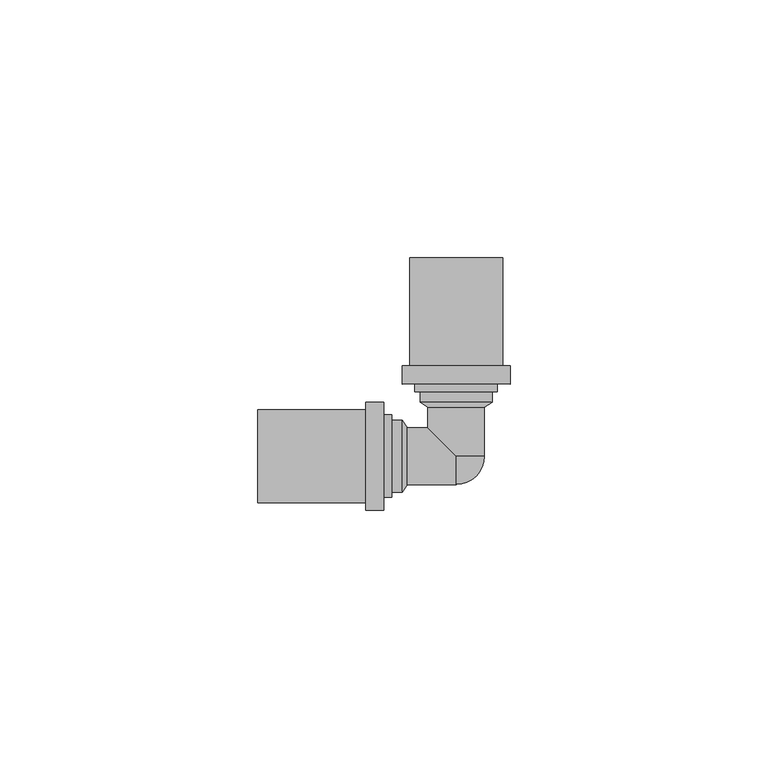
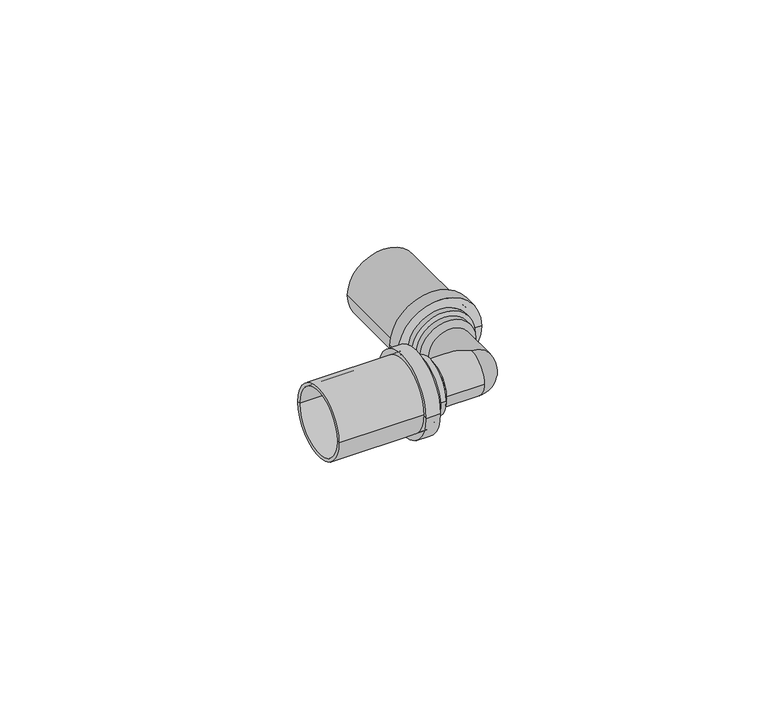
"""IFC4 building model written with IfcOpenShell, lengths in millimetres: pipe fitting geometry, Astra Gás - Cotovelo - GC : Astra Gás - Cotovelo - GC."""

import ifcopenshell
import ifcopenshell.guid

model = None  # the IFC model being written
_history = None  # IfcOwnerHistory: only IFC2X3 demands one
_inside = {}  # id of a spatial element -> (the spatial element, [elements in it])
_under = {}  # id of a project, library or spatial element -> (it, [spatial elements below it])
_declared = {}  # id of a project -> (the project, [libraries it declares])
_typed = {}  # id of a type object -> (the type object, [elements of that type])
_made_of = {}  # id of a material, layer set ... -> (it, [elements and type objects made of it])


def new_model(schema):
    """Start an empty IFC model of exactly this schema.

    Asked for "IFC4X3", IfcOpenShell would pick the latest addendum, in which some entities
    have other attributes; the version numbers below select the first issue.
    IFC2X3 requires an IfcOwnerHistory on every rooted entity: one is made here for all.
    """
    global model, _history
    if schema == "IFC4X3":
        model = ifcopenshell.file(schema_version=(4, 3, 0, 0))
    else:
        model = ifcopenshell.file(schema=schema)
    _inside.clear()
    _under.clear()
    _declared.clear()
    _typed.clear()
    _made_of.clear()
    _history = None
    if model.schema == "IFC2X3":
        org = make("IfcOrganization", Name="unknown")
        user = make(
            "IfcPersonAndOrganization",
            ThePerson=make("IfcPerson", FamilyName="unknown"),
            TheOrganization=org,
        )
        app = make(
            "IfcApplication",
            ApplicationDeveloper=org,
            Version="unknown",
            ApplicationFullName="unknown",
            ApplicationIdentifier="unknown",
        )
        _history = make(
            "IfcOwnerHistory",
            OwningUser=user,
            OwningApplication=app,
            ChangeAction="ADDED",
            CreationDate=0,
        )
    return model


def make(cls, **values):
    """One entity of the class cls with the attributes given. An attribute that is None is left unset."""
    return model.create_entity(
        cls, **{name: value for name, value in values.items() if value is not None}
    )


def rooted(cls, **values):
    """An entity with a GlobalId (a new one), such as an element, a storey or a relation."""
    return make(cls, GlobalId=ifcopenshell.guid.new(), OwnerHistory=_history, **values)


def si_unit(unit_type, name, prefix=None):
    """IfcSIUnit, for example si_unit("LENGTHUNIT", "METRE", prefix="MILLI")."""
    return make("IfcSIUnit", UnitType=unit_type, Prefix=prefix, Name=name)


def assignment(units):
    """IfcUnitAssignment: the units of a project."""
    return None if units is None else make("IfcUnitAssignment", Units=units)


def point(xyz):
    """IfcCartesianPoint."""
    return None if xyz is None else make("IfcCartesianPoint", Coordinates=xyz)


def direction(xyz):
    """IfcDirection."""
    return None if xyz is None else make("IfcDirection", DirectionRatios=xyz)


def frame(location, z_axis=None, x_axis=None):
    """IfcAxis2Placement3D, a coordinate frame: its origin and axes. An axis left out is left unset."""
    return make(
        "IfcAxis2Placement3D",
        Location=point(location),
        Axis=direction(z_axis),
        RefDirection=direction(x_axis),
    )


def origin():
    """The frame at (0, 0, 0) with its axes left unset."""
    return frame((0.0, 0.0, 0.0))


def place(relative_to, where):
    """IfcLocalPlacement: puts the frame where relative to a parent placement (None: the world)."""
    return make(
        "IfcLocalPlacement", PlacementRelTo=relative_to, RelativePlacement=where
    )


def context(
    kind, dimensions, precision=None, world=None, true_north=None, identifier=None
):
    """IfcGeometricRepresentationContext, for example the 3D "Model" context."""
    return make(
        "IfcGeometricRepresentationContext",
        ContextIdentifier=identifier,
        ContextType=kind,
        CoordinateSpaceDimension=dimensions,
        Precision=precision,
        WorldCoordinateSystem=world,
        TrueNorth=true_north,
    )


def project(units=None, contexts=None):
    """IfcProject with its units and contexts."""
    return rooted(
        "IfcProject",
        Name="project",
        RepresentationContexts=contexts,
        UnitsInContext=assignment(units),
    )


def spatial(cls, under=None, at=None, **own):
    """A site, building, storey or space (cls), placed at a placement, below another one or the project."""
    s = rooted(cls, ObjectPlacement=at, **own)
    if under is not None:
        _under.setdefault(under.id(), (under, []))[1].append(s)
    return s


def polyline(points):
    """IfcPolyline through the points."""
    return make("IfcPolyline", Points=[point(p) for p in points])


def circle_curve(where, radius):
    """IfcCircle in the frame where."""
    return make("IfcCircle", Position=where, Radius=radius)


def ellipse_curve(where, semi_axis1, semi_axis2):
    """IfcEllipse in the frame where."""
    return make(
        "IfcEllipse", Position=where, SemiAxis1=semi_axis1, SemiAxis2=semi_axis2
    )


def trimmed(basis, trim1, trim2, sense, master):
    """IfcTrimmedCurve: the piece of a basis curve between two trims."""
    return make(
        "IfcTrimmedCurve",
        BasisCurve=basis,
        Trim1=trim1,
        Trim2=trim2,
        SenseAgreement=sense,
        MasterRepresentation=master,
    )


def shape(context_of_items, identifier, shape_type, items):
    """IfcShapeRepresentation: the items that make up one representation, for example the "Body"."""
    return make(
        "IfcShapeRepresentation",
        ContextOfItems=context_of_items,
        RepresentationIdentifier=identifier,
        RepresentationType=shape_type,
        Items=items,
    )


def source(mapping_origin, context_of_items, identifier, shape_type, items):
    """IfcRepresentationMap: a shape defined once, which mapped items show again and again."""
    return make(
        "IfcRepresentationMap",
        MappingOrigin=mapping_origin,
        MappedRepresentation=shape(context_of_items, identifier, shape_type, items),
    )


def transform(
    local_origin,
    x_axis=None,
    y_axis=None,
    z_axis=None,
    scale=None,
    scale2=None,
    scale3=None,
    uniform=True,
):
    """IfcCartesianTransformationOperator3D, or its non-uniform kind. x_axis, y_axis, z_axis: its Axis1, 2, 3."""
    if uniform:
        return make(
            "IfcCartesianTransformationOperator3D",
            Axis1=direction(x_axis),
            Axis2=direction(y_axis),
            LocalOrigin=point(local_origin),
            Scale=scale,
            Axis3=direction(z_axis),
        )
    return make(
        "IfcCartesianTransformationOperator3DnonUniform",
        Axis1=direction(x_axis),
        Axis2=direction(y_axis),
        LocalOrigin=point(local_origin),
        Scale=scale,
        Axis3=direction(z_axis),
        Scale2=scale2,
        Scale3=scale3,
    )


def mapped(mapping_source, mapping_target):
    """IfcMappedItem: shows the shape of a source again, moved by a transform."""
    return make(
        "IfcMappedItem", MappingSource=mapping_source, MappingTarget=mapping_target
    )


def made_of(thing, what):
    """Note that an element or type object is made of a material, layer set ...; save() writes the relation."""
    if what is not None:
        _made_of.setdefault(what.id(), (what, []))[1].append(thing)
    return thing


def element(
    cls,
    number,
    at=None,
    inside=None,
    cuts=None,
    type_object=None,
    material=None,
    context=None,
    identifier="Body",
    shape_type=None,
    held_by="IfcProductDefinitionShape",
    body=None,
    shapes=None,
    **own,
):
    """One element of the class cls, such as IfcWall. Its Tag is "e" and its number.

    at: its placement. inside: the storey or other place that contains it. cuts: it is an
    opening in that element (IfcRelVoidsElement). A single representation is given by context,
    identifier, shape_type and body (its items); several are given by shapes. held_by: the class
    of the entity that holds the representations. save() writes the other relations.
    """
    e = rooted(cls, Tag="e%d" % number, ObjectPlacement=at, **own)
    if body is not None:
        shapes = [shape(context, identifier, shape_type, body)]
    if shapes is not None:
        e.Representation = make(held_by, Representations=shapes)
    if inside is not None:
        _inside.setdefault(inside.id(), (inside, []))[1].append(e)
    if cuts is not None:
        rooted(
            "IfcRelVoidsElement", RelatingBuildingElement=cuts, RelatedOpeningElement=e
        )
    if type_object is not None:
        _typed.setdefault(type_object.id(), (type_object, []))[1].append(e)
    return made_of(e, material)


def aggregate(whole, parts):
    """IfcRelAggregates: a whole, such as a stair, and the parts it consists of."""
    return rooted("IfcRelAggregates", RelatingObject=whole, RelatedObjects=parts)


def save(model, path):
    """Write the relations noted so far, then the file.

    IfcRelAggregates (storeys below a building ...), IfcRelContainedInSpatialStructure (elements
    in a storey), IfcRelDefinesByType, IfcRelAssociatesMaterial and IfcRelDeclares: one each for
    every whole, place, type object, material and project.
    """
    for whole, parts in _under.values():
        aggregate(whole, parts)
    for where, things in _inside.values():
        rooted(
            "IfcRelContainedInSpatialStructure",
            RelatedElements=things,
            RelatingStructure=where,
        )
    for kind, things in _typed.values():
        rooted("IfcRelDefinesByType", RelatedObjects=things, RelatingType=kind)
    for what, things in _made_of.values():
        rooted("IfcRelAssociatesMaterial", RelatedObjects=things, RelatingMaterial=what)
    for by, libraries in _declared.values():
        rooted("IfcRelDeclares", RelatingContext=by, RelatedDefinitions=libraries)
    model.write(path)


def plane_surface(at):
    """IfcPlane: the flat surface through the origin of the frame at, square to its z axis."""
    return make("IfcPlane", Position=at)


def cylinder_surface(at, radius):
    """IfcCylindricalSurface: all points at the distance radius from the z axis of the frame at."""
    return make("IfcCylindricalSurface", Position=at, Radius=radius)


def revolved_surface(curve, axis_point, axis_direction):
    """IfcSurfaceOfRevolution: the curve turned about the line through axis_point along axis_direction."""
    return make(
        "IfcSurfaceOfRevolution",
        SweptCurve=make("IfcArbitraryOpenProfileDef", ProfileType="CURVE", Curve=curve),
        AxisPosition=make("IfcAxis1Placement", Location=point(axis_point), Axis=direction(axis_direction)),
    )


def advanced_brep(points, edges, surfaces, faces):
    """IfcAdvancedBrep: a solid bounded by faces that lie on surfaces and meet in shared edges.

    An edge is (start, end): straight between two places in points (the first is 0);
    or (start, end, curve); or (start, end, curve, False) where it runs against its curve.
    A face is (place in surfaces, loops), or (place, loops, False) where it looks against
    its surface's normal. A loop lists edges by number (the first is 1), with a minus sign
    where the edge is run from its end to its start. The first loop is the outer one.
    """
    corners = [point(p) for p in points]
    vertices = [make("IfcVertexPoint", VertexGeometry=c) for c in corners]
    made = []
    for start, end, *more in edges:
        made.append(
            make(
                "IfcEdgeCurve",
                EdgeStart=vertices[start],
                EdgeEnd=vertices[end],
                EdgeGeometry=more[0] if more else make("IfcPolyline", Points=[corners[start], corners[end]]),
                SameSense=more[1] if len(more) > 1 else True,
            )
        )
    hull = []
    for where, loops, *sense in faces:
        bounds = []
        for j, loop in enumerate(loops):
            ring = [make("IfcOrientedEdge", EdgeElement=made[abs(k) - 1], Orientation=k > 0) for k in loop]
            bounds.append(
                make(
                    "IfcFaceOuterBound" if j == 0 else "IfcFaceBound",
                    Bound=make("IfcEdgeLoop", EdgeList=ring),
                    Orientation=True,
                )
            )
        hull.append(make("IfcAdvancedFace", Bounds=bounds, FaceSurface=surfaces[where], SameSense=sense[0] if sense else True))
    return make("IfcAdvancedBrep", Outer=make("IfcClosedShell", CfsFaces=hull))


def pipe_fitting_8c27515d(model_context):
    return source(origin(), model_context, "Body", "AdvancedBrep", [
        advanced_brep(
        [(-9.05, 38.5, 0.0), (9.05, 38.5, 0.0), (9.05, 15.0, 0.0), (-9.05, 15.0, 0.0), (-8.25, 38.5, 0.0), (8.25, 38.5, 0.0), (-8.25, 15.0, 0.0), (8.25, 15.0, 0.0)],
        [
            (0, 1, circle_curve(frame((0.0, 38.5, 0.0), z_axis=(0.0, -1.0, 0.0), x_axis=(1.0000000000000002, 0.0, 0.0)), 9.05)),
            (1, 2),
            (2, 3, circle_curve(frame((0.0, 15.0, 0.0), z_axis=(0.0, 1.0, 0.0), x_axis=(1.0000000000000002, 0.0, 0.0)), 9.05)),
            (3, 0),
            (1, 0, circle_curve(frame((0.0, 38.5, 0.0), z_axis=(0.0, -1.0, 0.0), x_axis=(1.0000000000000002, 0.0, 0.0)), 9.05)),
            (3, 2, circle_curve(frame((0.0, 15.0, 0.0), z_axis=(0.0, 1.0, 0.0), x_axis=(1.0000000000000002, 0.0, 0.0)), 9.05)),
            (4, 5, circle_curve(frame((0.0, 38.5, 0.0), z_axis=(0.0, -1.0, 0.0), x_axis=(1.0000000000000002, 0.0, 0.0)), 8.25)),
            (5, 1),
            (0, 4),
            (5, 4, circle_curve(frame((0.0, 38.5, 0.0), z_axis=(0.0, -1.0, 0.0), x_axis=(1.0000000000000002, 0.0, 0.0)), 8.25)),
            (6, 7, circle_curve(frame((0.0, 15.0, 0.0), z_axis=(0.0, -1.0, 0.0), x_axis=(1.0000000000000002, 0.0, 0.0)), 8.25)),
            (7, 5),
            (4, 6),
            (7, 6, circle_curve(frame((0.0, 15.0, 0.0), z_axis=(0.0, -1.0, 0.0), x_axis=(1.0000000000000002, 0.0, 0.0)), 8.25)),
            (2, 7),
            (6, 3),
        ],
        [
            cylinder_surface(frame((0.0, 38.5, 0.0), z_axis=(0.0, 1.0000000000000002, 0.0), x_axis=(1.0000000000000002, 0.0, 0.0)), 9.05),
            plane_surface(frame((0.0, 38.5, 0.0), z_axis=(0.0, 1.0, 0.0), x_axis=(1.0, 0.0, 0.0))),
            revolved_surface(polyline([(8.250000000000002, 38.5, 0.0), (8.250000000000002, 14.999999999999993, 0.0)]), (0.0, 38.5, 0.0), (0.0, 1.0000000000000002, 0.0)),
            plane_surface(frame((0.0, 15.0, 0.0), z_axis=(0.0, -1.0, 0.0), x_axis=(1.0, 0.0, 0.0))),
        ],
        [
            (0, [[1, 2, 3, 4]]),
            (0, [[5, -4, 6, -2]]),
            (1, [[7, 8, -1, 9]]),
            (1, [[10, -9, -5, -8]]),
            (2, [[11, 12, -7, 13]]),
            (2, [[14, -13, -10, -12]]),
            (3, [[-3, 15, -11, 16]]),
            (3, [[-6, -16, -14, -15]]),
        ],
    ),
        advanced_brep(
        [(-38.5, -9.05, 0.0), (-38.5, 9.05, 0.0), (-15.0, 9.05, 0.0), (-15.0, -9.05, 0.0), (-38.5, -8.25, 0.0), (-38.5, 8.25, 0.0), (-15.0, -8.25, 0.0), (-15.0, 8.25, 0.0)],
        [
            (0, 1, circle_curve(frame((-38.5, 0.0, 0.0), z_axis=(1.0, 0.0, 0.0), x_axis=(0.0, 1.0, 0.0)), 9.05)),
            (1, 2),
            (2, 3, circle_curve(frame((-15.0, 0.0, 0.0), z_axis=(-1.0, 0.0, 0.0), x_axis=(0.0, 1.0, 0.0)), 9.05)),
            (3, 0),
            (1, 0, circle_curve(frame((-38.5, 0.0, 0.0), z_axis=(1.0, 0.0, 0.0), x_axis=(0.0, 1.0, 0.0)), 9.05)),
            (3, 2, circle_curve(frame((-15.0, 0.0, 0.0), z_axis=(-1.0, 0.0, 0.0), x_axis=(0.0, 1.0, 0.0)), 9.05)),
            (4, 5, circle_curve(frame((-38.5, 0.0, 0.0), z_axis=(1.0, 0.0, 0.0), x_axis=(0.0, 1.0, 0.0)), 8.25)),
            (5, 1),
            (0, 4),
            (5, 4, circle_curve(frame((-38.5, 0.0, 0.0), z_axis=(1.0, 0.0, 0.0), x_axis=(0.0, 1.0, 0.0)), 8.25)),
            (6, 7, circle_curve(frame((-15.0, 0.0, 0.0), z_axis=(1.0, 0.0, 0.0), x_axis=(0.0, 1.0, 0.0)), 8.25)),
            (7, 5),
            (4, 6),
            (7, 6, circle_curve(frame((-15.0, 0.0, 0.0), z_axis=(1.0, 0.0, 0.0), x_axis=(0.0, 1.0, 0.0)), 8.25)),
            (2, 7),
            (6, 3),
        ],
        [
            cylinder_surface(frame((-38.5, 0.0, 0.0), z_axis=(-1.0, 0.0, 0.0), x_axis=(0.0, 1.0, 0.0)), 9.05),
            plane_surface(frame((-38.5, 0.0, 0.0), z_axis=(-1.0, 0.0, 0.0), x_axis=(0.0, 1.0, 0.0))),
            revolved_surface(polyline([(-38.5, 8.25, 0.0), (-15.0, 8.25, 0.0)]), (-38.5, 0.0, 0.0), (-1.0, 0.0, 0.0)),
            plane_surface(frame((-15.0, 0.0, 0.0), z_axis=(1.0, 0.0, 0.0), x_axis=(0.0, 1.0, 0.0))),
        ],
        [
            (0, [[1, 2, 3, 4]]),
            (0, [[5, -4, 6, -2]]),
            (1, [[7, 8, -1, 9]]),
            (1, [[10, -9, -5, -8]]),
            (2, [[11, 12, -7, 13]]),
            (2, [[14, -13, -10, -12]]),
            (3, [[-3, 15, -11, 16]]),
            (3, [[-6, -16, -14, -15]]),
        ],
    ),
        advanced_brep(
        [(-9.05, 15.0, 0.0), (9.05, 15.0, 0.0), (9.05, 17.5, 0.0), (-9.05, 17.5, 0.0), (0.0, 15.0, 0.0), (-8.0, 12.5, 0.0), (8.0, 12.5, 0.0), (0.0, 12.5, 0.0), (-8.0, 14.0, 0.0), (8.0, 14.0, 0.0), (-10.5, 14.0, 0.0), (10.5, 14.0, 0.0), (-10.5, 17.5, 0.0), (10.5, 17.5, 0.0)],
        [
            (0, 1, circle_curve(frame((0.0, 15.0, 0.0), z_axis=(0.0, -1.0, 0.0), x_axis=(1.0000000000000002, 0.0, 0.0)), 9.05)),
            (1, 2),
            (2, 3, circle_curve(frame((0.0, 17.5, 0.0), z_axis=(0.0, 1.0, 0.0), x_axis=(1.0000000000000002, 0.0, 0.0)), 9.05)),
            (3, 0),
            (1, 0, circle_curve(frame((0.0, 15.0, 0.0), z_axis=(0.0, -1.0, 0.0), x_axis=(1.0000000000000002, 0.0, 0.0)), 9.05)),
            (3, 2, circle_curve(frame((0.0, 17.5, 0.0), z_axis=(0.0, 1.0, 0.0), x_axis=(1.0000000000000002, 0.0, 0.0)), 9.05)),
            (4, 1),
            (0, 4),
            (5, 6, circle_curve(frame((0.0, 12.5, 0.0), z_axis=(0.0, -1.0, 0.0), x_axis=(1.0000000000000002, 0.0, 0.0)), 8.0)),
            (6, 7),
            (7, 5),
            (6, 5, circle_curve(frame((0.0, 12.5, 0.0), z_axis=(0.0, -1.0, 0.0), x_axis=(1.0000000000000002, 0.0, 0.0)), 8.0)),
            (8, 9, circle_curve(frame((0.0, 14.0, 0.0), z_axis=(0.0, -1.0, 0.0), x_axis=(1.0000000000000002, 0.0, 0.0)), 8.0)),
            (9, 6),
            (5, 8),
            (9, 8, circle_curve(frame((0.0, 14.0, 0.0), z_axis=(0.0, -1.0, 0.0), x_axis=(1.0000000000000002, 0.0, 0.0)), 8.0)),
            (10, 11, circle_curve(frame((0.0, 14.0, 0.0), z_axis=(0.0, -1.0, 0.0), x_axis=(1.0000000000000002, 0.0, 0.0)), 10.5)),
            (11, 9),
            (8, 10),
            (11, 10, circle_curve(frame((0.0, 14.0, 0.0), z_axis=(0.0, -1.0, 0.0), x_axis=(1.0000000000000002, 0.0, 0.0)), 10.5)),
            (12, 13, circle_curve(frame((0.0, 17.5, 0.0), z_axis=(0.0, -1.0, 0.0), x_axis=(1.0000000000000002, 0.0, 0.0)), 10.5)),
            (13, 11),
            (10, 12),
            (13, 12, circle_curve(frame((0.0, 17.5, 0.0), z_axis=(0.0, -1.0, 0.0), x_axis=(1.0000000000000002, 0.0, 0.0)), 10.5)),
            (2, 13),
            (12, 3),
        ],
        [
            revolved_surface(polyline([(9.050000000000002, 17.5, 0.0), (9.050000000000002, 15.0, 0.0)]), (0.0, 17.5, 0.0), (0.0, 1.0000000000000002, 0.0)),
            plane_surface(frame((0.0, 15.0, 0.0), z_axis=(0.0, 1.0, 0.0), x_axis=(1.0, 0.0, 0.0))),
            plane_surface(frame((0.0, 12.5, 0.0), z_axis=(0.0, -1.0, 0.0), x_axis=(1.0, 0.0, 0.0))),
            cylinder_surface(frame((0.0, 17.5, 0.0), z_axis=(0.0, 1.0000000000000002, 0.0), x_axis=(1.0000000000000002, 0.0, 0.0)), 8.0),
            plane_surface(frame((0.0, 14.0, 0.0), z_axis=(0.0, -1.0, 0.0), x_axis=(1.0, 0.0, 0.0))),
            cylinder_surface(frame((0.0, 17.5, 0.0), z_axis=(0.0, 1.0000000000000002, 0.0), x_axis=(1.0000000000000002, 0.0, 0.0)), 10.5),
            plane_surface(frame((0.0, 17.5, 0.0), z_axis=(0.0, 1.0, 0.0), x_axis=(1.0, 0.0, 0.0))),
        ],
        [
            (0, [[1, 2, 3, 4]]),
            (0, [[5, -4, 6, -2]]),
            (1, [[7, -1, 8]]),
            (1, [[-8, -5, -7]]),
            (2, [[9, 10, 11]]),
            (2, [[12, -11, -10]]),
            (3, [[13, 14, -9, 15]]),
            (3, [[16, -15, -12, -14]]),
            (4, [[17, 18, -13, 19]]),
            (4, [[20, -19, -16, -18]]),
            (5, [[21, 22, -17, 23]]),
            (5, [[24, -23, -20, -22]]),
            (6, [[-3, 25, -21, 26]]),
            (6, [[-6, -26, -24, -25]]),
        ],
    ),
        advanced_brep(
        [(-15.0, -9.05, 0.0), (-15.0, 9.05, 0.0), (-17.5, 9.05, 0.0), (-17.5, -9.05, 0.0), (-15.0, 0.0, 0.0), (-12.5, -8.0, 0.0), (-12.5, 8.0, 0.0), (-12.5, 0.0, 0.0), (-14.0, -8.0, 0.0), (-14.0, 8.0, 0.0), (-14.0, -10.5, 0.0), (-14.0, 10.5, 0.0), (-17.5, -10.5, 0.0), (-17.5, 10.5, 0.0)],
        [
            (0, 1, circle_curve(frame((-15.0, 0.0, 0.0), z_axis=(1.0, 0.0, 0.0), x_axis=(0.0, 1.0, 0.0)), 9.05)),
            (1, 2),
            (2, 3, circle_curve(frame((-17.5, 0.0, 0.0), z_axis=(-1.0, 0.0, 0.0), x_axis=(0.0, 1.0, 0.0)), 9.05)),
            (3, 0),
            (1, 0, circle_curve(frame((-15.0, 0.0, 0.0), z_axis=(1.0, 0.0, 0.0), x_axis=(0.0, 1.0, 0.0)), 9.05)),
            (3, 2, circle_curve(frame((-17.5, 0.0, 0.0), z_axis=(-1.0, 0.0, 0.0), x_axis=(0.0, 1.0, 0.0)), 9.05)),
            (4, 1),
            (0, 4),
            (5, 6, circle_curve(frame((-12.5, 0.0, 0.0), z_axis=(1.0, 0.0, 0.0), x_axis=(0.0, 1.0, 0.0)), 8.0)),
            (6, 7),
            (7, 5),
            (6, 5, circle_curve(frame((-12.5, 0.0, 0.0), z_axis=(1.0, 0.0, 0.0), x_axis=(0.0, 1.0, 0.0)), 8.0)),
            (8, 9, circle_curve(frame((-14.0, 0.0, 0.0), z_axis=(1.0, 0.0, 0.0), x_axis=(0.0, 1.0, 0.0)), 8.0)),
            (9, 6),
            (5, 8),
            (9, 8, circle_curve(frame((-14.0, 0.0, 0.0), z_axis=(1.0, 0.0, 0.0), x_axis=(0.0, 1.0, 0.0)), 8.0)),
            (10, 11, circle_curve(frame((-14.0, 0.0, 0.0), z_axis=(1.0, 0.0, 0.0), x_axis=(0.0, 1.0, 0.0)), 10.5)),
            (11, 9),
            (8, 10),
            (11, 10, circle_curve(frame((-14.0, 0.0, 0.0), z_axis=(1.0, 0.0, 0.0), x_axis=(0.0, 1.0, 0.0)), 10.5)),
            (12, 13, circle_curve(frame((-17.5, 0.0, 0.0), z_axis=(1.0, 0.0, 0.0), x_axis=(0.0, 1.0, 0.0)), 10.5)),
            (13, 11),
            (10, 12),
            (13, 12, circle_curve(frame((-17.5, 0.0, 0.0), z_axis=(1.0, 0.0, 0.0), x_axis=(0.0, 1.0, 0.0)), 10.5)),
            (2, 13),
            (12, 3),
        ],
        [
            revolved_surface(polyline([(-17.5, 9.05, 0.0), (-15.0, 9.05, 0.0)]), (-17.5, 0.0, 0.0), (-1.0, 0.0, 0.0)),
            plane_surface(frame((-15.0, 0.0, 0.0), z_axis=(-1.0, 0.0, 0.0), x_axis=(0.0, 1.0, 0.0))),
            plane_surface(frame((-12.5, 0.0, 0.0), z_axis=(1.0, 0.0, 0.0), x_axis=(0.0, 1.0, 0.0))),
            cylinder_surface(frame((-17.5, 0.0, 0.0), z_axis=(-1.0, 0.0, 0.0), x_axis=(0.0, 1.0, 0.0)), 8.0),
            plane_surface(frame((-14.0, 0.0, 0.0), z_axis=(1.0, 0.0, 0.0), x_axis=(0.0, 1.0, 0.0))),
            cylinder_surface(frame((-17.5, 0.0, 0.0), z_axis=(-1.0, 0.0, 0.0), x_axis=(0.0, 1.0, 0.0)), 10.5),
            plane_surface(frame((-17.5, 0.0, 0.0), z_axis=(-1.0, 0.0, 0.0), x_axis=(0.0, 1.0, 0.0))),
        ],
        [
            (0, [[1, 2, 3, 4]]),
            (0, [[5, -4, 6, -2]]),
            (1, [[7, -1, 8]]),
            (1, [[-8, -5, -7]]),
            (2, [[9, 10, 11]]),
            (2, [[12, -11, -10]]),
            (3, [[13, 14, -9, 15]]),
            (3, [[16, -15, -12, -14]]),
            (4, [[17, 18, -13, 19]]),
            (4, [[20, -19, -16, -18]]),
            (5, [[21, 22, -17, 23]]),
            (5, [[24, -23, -20, -22]]),
            (6, [[-3, 25, -21, 26]]),
            (6, [[-6, -26, -24, -25]]),
        ],
    ),
        advanced_brep(
        [(0.0, -5.5, 0.0), (0.0, 0.0, -5.5), (5.5, 0.0, 0.0), (0.0, 0.0, 5.5), (-7.0, 10.5, 0.0), (7.0, 10.5, 0.0), (5.5, 9.5, 0.0), (-5.5, 9.5, 0.0), (-7.0, 12.5, 0.0), (7.0, 12.5, 0.0), (0.0, 12.5, 0.0), (-5.5, 5.5, 0.0), (-9.5, -5.5, 0.0), (-9.5, 5.5, 0.0), (-10.5, -7.0, 0.0), (-10.5, 7.0, 0.0), (-12.5, -7.0, 0.0), (-12.5, 7.0, 0.0), (-12.5, 0.0, 0.0)],
        [
            (0, 1, circle_curve(frame((0.0, 0.0, 0.0), z_axis=(1.0, 0.0, 0.0), x_axis=(0.0, -1.0, 0.0)), 5.5)),
            (1, 2, circle_curve(frame((0.0, 0.0, 0.0), z_axis=(0.0, -1.0, 0.0), x_axis=(1.0, 0.0, 0.0)), 5.5)),
            (2, 3, circle_curve(frame((0.0, 0.0, 0.0), z_axis=(0.0, -1.0, 0.0), x_axis=(1.0, 0.0, 0.0)), 5.5)),
            (3, 0, circle_curve(frame((0.0, 0.0, 0.0), z_axis=(1.0, 0.0, 0.0), x_axis=(0.0, -1.0, 0.0)), 5.5)),
            (4, 5, circle_curve(frame((0.0, 10.5, 0.0), z_axis=(0.0, -1.0, 0.0), x_axis=(1.0, 0.0, 0.0)), 7.0)),
            (5, 6),
            (6, 7, circle_curve(frame((0.0, 9.5, 0.0), z_axis=(0.0, 1.0, 0.0), x_axis=(1.0, 0.0, 0.0)), 5.5)),
            (7, 4),
            (5, 4, circle_curve(frame((0.0, 10.5, 0.0), z_axis=(0.0, -1.0, 0.0), x_axis=(1.0, 0.0, 0.0)), 7.0)),
            (7, 6, circle_curve(frame((0.0, 9.5, 0.0), z_axis=(0.0, 1.0, 0.0), x_axis=(1.0, 0.0, 0.0)), 5.5)),
            (4, 8),
            (8, 9, circle_curve(frame((0.0, 12.5, 0.0), z_axis=(0.0, -1.0, 0.0), x_axis=(1.0, 0.0, 0.0)), 7.0)),
            (9, 5),
            (9, 8, circle_curve(frame((0.0, 12.5, 0.0), z_axis=(0.0, -1.0, 0.0), x_axis=(1.0, 0.0, 0.0)), 7.0)),
            (8, 10),
            (10, 9),
            (6, 2),
            (1, 11, ellipse_curve(frame((0.0, 0.0, 0.0), z_axis=(0.7071067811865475, 0.7071067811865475, 0.0), x_axis=(-0.7071067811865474, 0.7071067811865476, 0.0)), 7.7781746, 5.5)),
            (11, 7),
            (11, 3, ellipse_curve(frame((0.0, 0.0, 0.0), z_axis=(0.7071067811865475, 0.7071067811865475, 0.0), x_axis=(-0.7071067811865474, 0.7071067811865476, 0.0)), 7.7781746, 5.5)),
            (12, 13, circle_curve(frame((-9.5, 0.0, 0.0), z_axis=(1.0, 0.0, 0.0), x_axis=(0.0, 1.0, 0.0)), 5.5)),
            (13, 11),
            (0, 12),
            (13, 12, circle_curve(frame((-9.5, 0.0, 0.0), z_axis=(1.0, 0.0, 0.0), x_axis=(0.0, 1.0, 0.0)), 5.5)),
            (12, 14),
            (14, 15, circle_curve(frame((-10.5, 0.0, 0.0), z_axis=(1.0, 0.0, 0.0), x_axis=(0.0, 1.0, 0.0)), 7.0)),
            (15, 13),
            (15, 14, circle_curve(frame((-10.5, 0.0, 0.0), z_axis=(1.0, 0.0, 0.0), x_axis=(0.0, 1.0, 0.0)), 7.0)),
            (14, 16),
            (16, 17, circle_curve(frame((-12.5, 0.0, 0.0), z_axis=(1.0, 0.0, 0.0), x_axis=(0.0, 1.0, 0.0)), 7.0)),
            (17, 15),
            (17, 16, circle_curve(frame((-12.5, 0.0, 0.0), z_axis=(1.0, 0.0, 0.0), x_axis=(0.0, 1.0, 0.0)), 7.0)),
            (16, 18),
            (18, 17),
        ],
        [
            revolved_surface(trimmed(ellipse_curve(frame((0.0, 0.0, 0.0), z_axis=(0.0, -1.0, 0.0), x_axis=(1.0, 0.0, 0.0)), 5.5, 5.5), [point((0.0, 0.0, -5.5))], [point((0.0, 0.0, 5.5))], True, "CARTESIAN"), (0.0, 0.0, 5.5), (0.0, 0.0, 1.0)),
            revolved_surface(polyline([(5.5, 9.5, 0.0), (7.0, 10.5, 0.0)]), (0.0, 12.5, 0.0), (0.0, 1.0, 0.0)),
            cylinder_surface(frame((0.0, 12.5, 0.0), z_axis=(0.0, 1.0, 0.0), x_axis=(1.0, 0.0, 0.0)), 7.0),
            plane_surface(frame((0.0, 12.5, 0.0), z_axis=(0.0, 1.0, 0.0), x_axis=(1.0, 0.0, 0.0))),
            cylinder_surface(frame((0.0, 12.5, 0.0), z_axis=(0.0, 1.0, 0.0), x_axis=(1.0, 0.0, 0.0)), 5.5),
            cylinder_surface(frame((-12.5, 0.0, 0.0), z_axis=(-1.0, 0.0, 0.0), x_axis=(0.0, 1.0, 0.0)), 5.5),
            revolved_surface(polyline([(-9.5, 5.5, 0.0), (-10.5, 7.0, 0.0)]), (-12.5, 0.0, 0.0), (-1.0, 0.0, 0.0)),
            cylinder_surface(frame((-12.5, 0.0, 0.0), z_axis=(-1.0, 0.0, 0.0), x_axis=(0.0, 1.0, 0.0)), 7.0),
            plane_surface(frame((-12.5, 0.0, 0.0), z_axis=(-1.0, 0.0, 0.0), x_axis=(0.0, 1.0, 0.0))),
        ],
        [
            (0, [[1, 2, 3, 4]]),
            (1, [[5, 6, 7, 8]]),
            (1, [[-6, 9, -8, 10]]),
            (2, [[-5, 11, 12, 13]]),
            (2, [[-9, -13, 14, -11]]),
            (3, [[-12, 15, 16]]),
            (3, [[-14, -16, -15]]),
            (4, [[-7, 17, -2, 18, 19]]),
            (4, [[-10, -19, 20, -3, -17]]),
            (5, [[21, 22, -18, -1, 23]]),
            (5, [[-23, -4, -20, -22, 24]]),
            (6, [[-21, 25, 26, 27]]),
            (6, [[-24, -27, 28, -25]]),
            (7, [[-26, 29, 30, 31]]),
            (7, [[-28, -31, 32, -29]]),
            (8, [[-30, 33, 34]]),
            (8, [[-32, -34, -33]]),
        ],
    ),
    ])


if __name__ == "__main__":
    model = new_model("IFC4")
    model_context = context("Model", 3, world=origin())
    ifc_project = project(units=[si_unit("LENGTHUNIT", "METRE", prefix="MILLI")], contexts=[model_context])
    site = spatial("IfcSite", under=ifc_project)
    building = spatial("IfcBuilding", under=site)
    placement = place(None, origin())
    pipe_fitting_shape = pipe_fitting_8c27515d(model_context)
    element("IfcPipeFitting", 1, ObjectType="Astra Gás - Cotovelo - GC : Astra Gás - Cotovelo - GC", at=placement, inside=building, context=model_context, shape_type="MappedRepresentation", body=[
        mapped(pipe_fitting_shape, transform((0.0, 0.0, 0.0), x_axis=(1.0, 0.0, 0.0), y_axis=(0.0, 1.0, 0.0), z_axis=(0.0, 0.0, 1.0))),
    ])
    save(model, "model.ifc")
